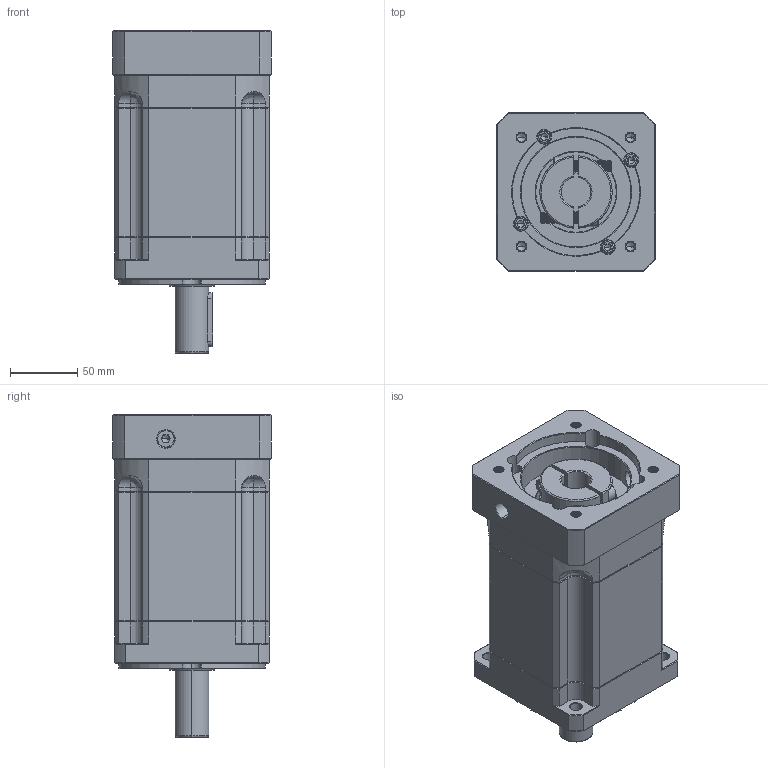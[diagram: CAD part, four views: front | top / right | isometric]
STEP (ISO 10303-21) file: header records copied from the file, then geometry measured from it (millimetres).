
FILE_DESCRIPTION (( 'STEP AP214' ), '1' );
FILE_NAME ('ZB115A-D25-L3-22-95-115-M8.step', '2023-03-02T08:58:45', ( '' ), ( 'Microsoft' ), 'SwSTEP 2.0', 'SolidWorks 2016', '' );
FILE_SCHEMA (( 'AUTOMOTIVE_DESIGN' ));
Length unit declared in the file: millimetre
Products named in the file (1): ZB115A-D25-L3-22-95-115-M8
Bounding box: 118 x 118 x 240.5 mm (x, y, z)
Volume: 2121471.5 mm3; surface area: 186863.6 mm2
Topology: 6 solids, 6 shells, 2128 faces, 5506 edges, 3469 vertices
Faces by surface type: plane 964, cylinder 448, cone 371, bspline 325, torus 20
Entity records: 113731 total; most frequent: CARTESIAN_POINT 41315, ORIENTED_EDGE 10944, DIRECTION 8985, EDGE_CURVE 5472, VERTEX_POINT 3469, VECTOR 3377, LINE 3377, AXIS2_PLACEMENT_3D 2804
